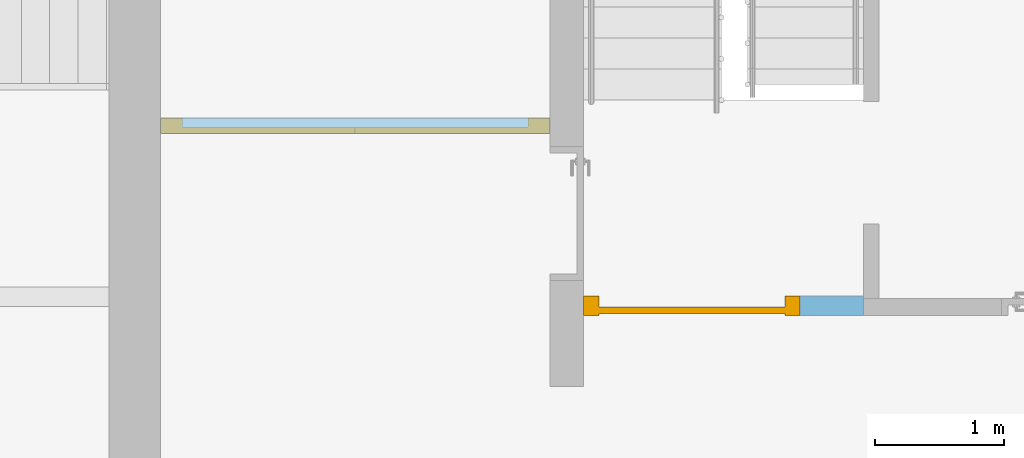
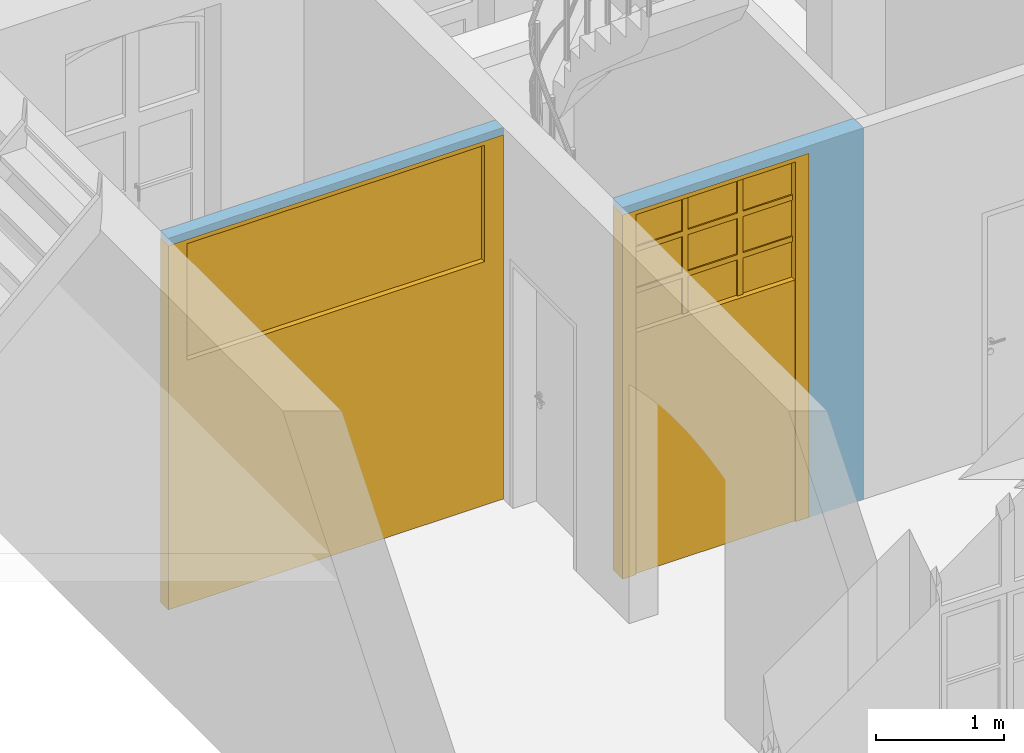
"""IFC4 building model written with IfcOpenShell, lengths in metres."""

from ifc_helpers import new_model, entity, si_unit, converted_unit, derived_unit, frame, frame_2d, origin, origin_with_axes, place, context, subcontext, project, spatial, polyline, rectangle, outline, extrude, faceted_brep, source, transform, mapped, material, layer, layer_set, layer_usage, element, fill, save


model = new_model("IFC4")

# Units and contexts
model_context = context("Model", 3, precision=1e-05, world=origin())
body_context = subcontext(model_context, "Body", "Model", "MODEL_VIEW")
ifc_project = project(units=[si_unit("LENGTHUNIT", "METRE"), si_unit("AREAUNIT", "SQUARE_METRE"), si_unit("VOLUMEUNIT", "CUBIC_METRE"), si_unit("MASSUNIT", "GRAM", prefix="KILO"), converted_unit("PLANEANGLEUNIT", "DEGREE", entity("IfcPlaneAngleMeasure", 0.0174532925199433), si_unit("PLANEANGLEUNIT", "RADIAN"), dimensions=[0, 0, 0, 0, 0, 0, 0]), derived_unit("THERMALTRANSMITTANCEUNIT", [(si_unit("POWERUNIT", "WATT"), 1), (si_unit("THERMODYNAMICTEMPERATUREUNIT", "KELVIN"), -1), (si_unit("LENGTHUNIT", "METRE"), -2)]), derived_unit("VOLUMETRICFLOWRATEUNIT", [(si_unit("LENGTHUNIT", "METRE"), 3), (converted_unit("TIMEUNIT", "hour", entity("IfcTimeMeasure", 3600.0), si_unit("TIMEUNIT", "SECOND"), dimensions=[0, 0, 1, 0, 0, 0, 0]), -1), (si_unit("LENGTHUNIT", "METRE"), -1)])], contexts=[model_context])

# Building, storeys
building_placement = place(None, origin())
building = spatial("IfcBuilding", under=ifc_project, at=building_placement, Name="Bestandsgebäude A - Sporthalle / Wohnhaus (TB 100-499)   ANPASSEN !!!", CompositionType="ELEMENT")
storey_1_placement = place(building_placement, frame((0.0, 0.0, 3.87)))
storey_1 = spatial("IfcBuildingStorey", under=building, at=storey_1_placement, Name="Geb. A 1. Obergeschoss (TB 250-299)", CompositionType="ELEMENT", Elevation=3.87)
storey_2_placement = place(storey_1_placement, frame((0.0, 0.0, 3.87)))
storey_2 = spatial("IfcBuildingStorey", under=storey_1, at=storey_2_placement, Name="Architektur (TB 250-259)", CompositionType="PARTIAL")

# Wall, opening, door
ifc_material_1 = material(Name="masonry")
ifc_layer_1 = layer(ifc_material_1, 0.12)
ifc_layer_set_1 = layer_set([ifc_layer_1])
ifc_layer_usage_1 = layer_usage(ifc_layer_set_1, "AXIS2", "POSITIVE", 0.0)
wall_1_placement = place(storey_2_placement, frame((-5.48, 5.89, -3.97), z_axis=(0.0, 0.0, 1.0), x_axis=(-1.0, 0.0, 0.0)))
wall_1 = element("IfcWall", 1, at=wall_1_placement, inside=storey_2, material=ifc_layer_usage_1, Name="masonry load-bearing", PredefinedType="USERDEFINED", context=body_context, shape_type="SweptSolid", body=[
    extrude(rectangle(XDim=3.02, YDim=0.12, at=frame_2d((1.51, 0.06), x_axis=(1.0, 0.0))), origin_with_axes(), (0.0, 0.0, 1.0), 3.54),
])
opening_1_placement = place(wall_1_placement, frame((0.0, 0.0, 0.0), z_axis=(0.0, 1.0, 0.0), x_axis=(0.0, 0.0, 1.0)))
opening_1 = element("IfcOpeningElement", 2, at=opening_1_placement, cuts=wall_1, Name="Door opening", PredefinedType="OPENING", context=body_context, shape_type="SweptSolid", body=[
    extrude(outline(polyline([(3.47, 3.02), (3.47, 0.0), (0.0, 0.0), (0.0, 3.02), (3.47, 3.02)])), origin_with_axes(), (0.0, 0.0, 1.0), 0.12),
])
shared_shape_1 = source(origin_with_axes(), body_context, "Body", "Brep", [
    faceted_brep([(0.0, 0.12, 3.47), (0.0, 0.12, 0.0), (0.17, 0.12, 0.0), (0.17, 0.12, 3.47), (0.0, 0.0, 0.0), (0.0, 0.0, 3.47), (0.17, 0.0, 3.47), (0.17, 0.0, 0.0)], [[[0, 1, 2, 3]], [[4, 5, 6, 7]], [[1, 0, 5, 4]], [[2, 1, 4, 7]], [[3, 2, 7, 6]], [[0, 3, 6, 5]]], orient=[[False], [False], [False], [False], [False], [False]]),
    faceted_brep([(2.85, 0.12, 3.47), (2.85, 0.12, 0.0), (3.02, 0.12, 0.0), (3.02, 0.12, 3.47), (2.85, 0.0, 0.0), (2.85, 0.0, 3.47), (3.02, 0.0, 3.47), (3.02, 0.0, 0.0)], [[[0, 1, 2, 3]], [[4, 5, 6, 7]], [[1, 0, 5, 4]], [[2, 1, 4, 7]], [[3, 2, 7, 6]], [[0, 3, 6, 5]]], orient=[[False], [False], [False], [False], [False], [False]]),
    faceted_brep([(0.17, 0.12, 3.47), (0.17, 0.12, 3.43), (2.85, 0.12, 3.43), (2.85, 0.12, 3.47), (0.17, 0.0, 3.43), (0.17, 0.0, 3.47), (2.85, 0.0, 3.47), (2.85, 0.0, 3.43)], [[[0, 1, 2, 3]], [[4, 5, 6, 7]], [[1, 0, 5, 4]], [[2, 1, 4, 7]], [[3, 2, 7, 6]], [[0, 3, 6, 5]]], orient=[[False], [False], [False], [False], [False], [False]]),
    faceted_brep([(0.17, 0.12, 2.320000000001), (0.17, 0.12, 2.120000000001), (2.85, 0.12, 2.120000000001), (2.85, 0.12, 2.320000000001), (0.17, 0.0, 2.120000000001), (0.17, 0.0, 2.320000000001), (2.85, 0.0, 2.320000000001), (2.85, 0.0, 2.120000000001)], [[[0, 1, 2, 3]], [[4, 5, 6, 7]], [[1, 0, 5, 4]], [[2, 1, 4, 7]], [[3, 2, 7, 6]], [[0, 3, 6, 5]]], orient=[[False], [False], [False], [False], [False], [False]]),
    faceted_brep([(0.17, 0.072, 2.320000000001), (0.17, 0.048, 2.320000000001), (2.85, 0.048, 2.320000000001), (2.85, 0.072, 2.320000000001), (0.17, 0.048, 3.43), (0.17, 0.072, 3.43), (2.85, 0.072, 3.43), (2.85, 0.048, 3.43)], [[[0, 1, 2, 3]], [[4, 5, 6, 7]], [[1, 0, 5, 4]], [[2, 1, 4, 7]], [[3, 2, 7, 6]], [[0, 3, 6, 5]]], orient=[[False], [False], [False], [False], [False], [False]]),
    faceted_brep([(0.17, 0.12, 2.120000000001), (0.17, 0.12, 0.0), (1.5095, 0.12, 0.0), (1.5095, 0.12, 2.120000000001), (0.17, 0.07, 0.0), (0.17, 0.07, 2.120000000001), (1.5095, 0.07, 2.120000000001), (1.5095, 0.07, 0.0)], [[[0, 1, 2, 3]], [[4, 5, 6, 7]], [[1, 0, 5, 4]], [[2, 1, 4, 7]], [[3, 2, 7, 6]], [[0, 3, 6, 5]]], orient=[[False], [False], [False], [False], [False], [False]]),
    faceted_brep([(1.5105, 0.12, 2.120000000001), (1.5105, 0.12, 0.0), (2.85, 0.12, 0.0), (2.85, 0.12, 2.120000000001), (1.5105, 0.07, 0.0), (1.5105, 0.07, 2.120000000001), (2.85, 0.07, 2.120000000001), (2.85, 0.07, 0.0)], [[[0, 1, 2, 3]], [[4, 5, 6, 7]], [[1, 0, 5, 4]], [[2, 1, 4, 7]], [[3, 2, 7, 6]], [[0, 3, 6, 5]]], orient=[[False], [False], [False], [False], [False], [False]]),
])
door_1_placement = place(opening_1_placement, frame((0.0, 0.0, 0.0), z_axis=(1.0, 0.0, 0.0), x_axis=(0.0, 1.0, 0.0)))
door_1 = element("IfcDoor", 3, at=door_1_placement, inside=storey_2, Name="door", OperationType="USERDEFINED", OverallHeight=3.47, OverallWidth=3.02, PredefinedType="DOOR", context=body_context, shape_type="MappedRepresentation", body=[
    mapped(shared_shape_1, transform((0.0, 0.0, 0.0), x_axis=(1.0, 0.0, 0.0), y_axis=(0.0, 1.0, 0.0), z_axis=(0.0, 0.0, 1.0), scale=1.0)),
])
fill(opening_1, door_1)

ifc_material_2 = material(Name="masonry")
ifc_layer_2 = layer(ifc_material_2, 0.15)
ifc_layer_set_2 = layer_set([ifc_layer_2])
ifc_layer_usage_2 = layer_usage(ifc_layer_set_2, "AXIS2", "POSITIVE", 0.0)
wall_2_placement = place(storey_2_placement, frame((-5.22, 4.36, -3.97)))
wall_2 = element("IfcWall", 4, at=wall_2_placement, inside=storey_2, material=ifc_layer_usage_2, Name="masonry load-bearing", PredefinedType="USERDEFINED", context=body_context, shape_type="SweptSolid", body=[
    extrude(rectangle(XDim=2.17000000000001, YDim=0.15, at=frame_2d((1.085, 0.075), x_axis=(1.0, 0.0))), origin_with_axes(), (0.0, 0.0, 1.0), 3.54),
])
opening_2_placement = place(wall_2_placement, frame((1.68000000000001, 0.15, 0.0), z_axis=(0.0, -1.0, 0.0), x_axis=(0.0, 0.0, 1.0)))
opening_2 = element("IfcOpeningElement", 5, at=opening_2_placement, cuts=wall_2, Name="Door opening", PredefinedType="OPENING", context=body_context, shape_type="SweptSolid", body=[
    extrude(outline(polyline([(3.47, 1.68000000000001), (3.47, 0.0), (0.0, 0.0), (0.0, 1.68000000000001), (3.47, 1.68000000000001)])), origin_with_axes(), (0.0, 0.0, 1.0), 0.15),
])
shared_shape_2 = source(origin_with_axes(), body_context, "Body", "Brep", [
    faceted_brep([(0.0, 0.15, 3.47), (0.0, 0.15, 0.0), (0.12, 0.15, 0.0), (0.12, 0.15, 3.47), (0.0, 0.0, 0.0), (0.0, 0.0, 3.47), (0.12, 0.0, 3.47), (0.12, 0.0, 0.0)], [[[0, 1, 2, 3]], [[4, 5, 6, 7]], [[1, 0, 5, 4]], [[2, 1, 4, 7]], [[3, 2, 7, 6]], [[0, 3, 6, 5]]], orient=[[False], [False], [False], [False], [False], [False]]),
    faceted_brep([(1.56, 0.15, 3.47), (1.56, 0.15, 0.0), (1.68, 0.15, 0.0), (1.68, 0.15, 3.47), (1.56, 0.0, 0.0), (1.56, 0.0, 3.47), (1.68, 0.0, 3.47), (1.68, 0.0, 0.0)], [[[0, 1, 2, 3]], [[4, 5, 6, 7]], [[1, 0, 5, 4]], [[2, 1, 4, 7]], [[3, 2, 7, 6]], [[0, 3, 6, 5]]], orient=[[False], [False], [False], [False], [False], [False]]),
    faceted_brep([(0.12, 0.15, 3.47), (0.12, 0.15, 3.43), (1.56, 0.15, 3.43), (1.56, 0.15, 3.47), (0.12, 0.0, 3.43), (0.12, 0.0, 3.47), (1.56, 0.0, 3.47), (1.56, 0.0, 3.43)], [[[0, 1, 2, 3]], [[4, 5, 6, 7]], [[1, 0, 5, 4]], [[2, 1, 4, 7]], [[3, 2, 7, 6]], [[0, 3, 6, 5]]], orient=[[False], [False], [False], [False], [False], [False]]),
    faceted_brep([(0.12, 0.135, 2.295000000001), (0.12, 0.135, 2.145000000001), (1.56, 0.135, 2.145000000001), (1.56, 0.135, 2.295000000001), (0.12, 0.015, 2.145000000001), (0.12, 0.015, 2.295000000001), (1.56, 0.015, 2.295000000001), (1.56, 0.015, 2.145000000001)], [[[0, 1, 2, 3]], [[4, 5, 6, 7]], [[1, 0, 5, 4]], [[2, 1, 4, 7]], [[3, 2, 7, 6]], [[0, 3, 6, 5]]], orient=[[False], [False], [False], [False], [False], [False]]),
    faceted_brep([(0.566666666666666, 0.1, 3.43), (0.566666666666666, 0.1, 2.295000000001), (0.616666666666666, 0.1, 2.295000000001), (0.616666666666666, 0.1, 3.43), (0.566666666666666, 0.05, 2.295000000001), (0.566666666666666, 0.05, 3.43), (0.616666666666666, 0.05, 3.43), (0.616666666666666, 0.05, 2.295000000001)], [[[0, 1, 2, 3]], [[4, 5, 6, 7]], [[1, 0, 5, 4]], [[2, 1, 4, 7]], [[3, 2, 7, 6]], [[0, 3, 6, 5]]], orient=[[False], [False], [False], [False], [False], [False]]),
    faceted_brep([(1.06333333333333, 0.1, 3.43), (1.06333333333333, 0.1, 2.295000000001), (1.11333333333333, 0.1, 2.295000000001), (1.11333333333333, 0.1, 3.43), (1.06333333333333, 0.05, 2.295000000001), (1.06333333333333, 0.05, 3.43), (1.11333333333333, 0.05, 3.43), (1.11333333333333, 0.05, 2.295000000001)], [[[0, 1, 2, 3]], [[4, 5, 6, 7]], [[1, 0, 5, 4]], [[2, 1, 4, 7]], [[3, 2, 7, 6]], [[0, 3, 6, 5]]], orient=[[False], [False], [False], [False], [False], [False]]),
    faceted_brep([(0.12, 0.1, 2.69000000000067), (0.12, 0.1, 2.64000000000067), (0.566666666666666, 0.1, 2.64000000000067), (0.566666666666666, 0.1, 2.69000000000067), (0.12, 0.05, 2.64000000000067), (0.12, 0.05, 2.69000000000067), (0.566666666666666, 0.05, 2.69000000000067), (0.566666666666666, 0.05, 2.64000000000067)], [[[0, 1, 2, 3]], [[4, 5, 6, 7]], [[1, 0, 5, 4]], [[2, 1, 4, 7]], [[3, 2, 7, 6]], [[0, 3, 6, 5]]], orient=[[False], [False], [False], [False], [False], [False]]),
    faceted_brep([(0.12, 0.1, 3.08500000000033), (0.12, 0.1, 3.03500000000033), (0.566666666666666, 0.1, 3.03500000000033), (0.566666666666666, 0.1, 3.08500000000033), (0.12, 0.05, 3.03500000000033), (0.12, 0.05, 3.08500000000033), (0.566666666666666, 0.05, 3.08500000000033), (0.566666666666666, 0.05, 3.03500000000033)], [[[0, 1, 2, 3]], [[4, 5, 6, 7]], [[1, 0, 5, 4]], [[2, 1, 4, 7]], [[3, 2, 7, 6]], [[0, 3, 6, 5]]], orient=[[False], [False], [False], [False], [False], [False]]),
    faceted_brep([(0.616666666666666, 0.1, 2.69000000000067), (0.616666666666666, 0.1, 2.64000000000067), (1.06333333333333, 0.1, 2.64000000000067), (1.06333333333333, 0.1, 2.69000000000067), (0.616666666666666, 0.05, 2.64000000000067), (0.616666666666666, 0.05, 2.69000000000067), (1.06333333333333, 0.05, 2.69000000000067), (1.06333333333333, 0.05, 2.64000000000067)], [[[0, 1, 2, 3]], [[4, 5, 6, 7]], [[1, 0, 5, 4]], [[2, 1, 4, 7]], [[3, 2, 7, 6]], [[0, 3, 6, 5]]], orient=[[False], [False], [False], [False], [False], [False]]),
    faceted_brep([(0.616666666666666, 0.1, 3.08500000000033), (0.616666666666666, 0.1, 3.03500000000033), (1.06333333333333, 0.1, 3.03500000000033), (1.06333333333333, 0.1, 3.08500000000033), (0.616666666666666, 0.05, 3.03500000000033), (0.616666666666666, 0.05, 3.08500000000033), (1.06333333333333, 0.05, 3.08500000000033), (1.06333333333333, 0.05, 3.03500000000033)], [[[0, 1, 2, 3]], [[4, 5, 6, 7]], [[1, 0, 5, 4]], [[2, 1, 4, 7]], [[3, 2, 7, 6]], [[0, 3, 6, 5]]], orient=[[False], [False], [False], [False], [False], [False]]),
    faceted_brep([(1.11333333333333, 0.1, 2.69000000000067), (1.11333333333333, 0.1, 2.64000000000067), (1.56, 0.1, 2.64000000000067), (1.56, 0.1, 2.69000000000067), (1.11333333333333, 0.05, 2.64000000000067), (1.11333333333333, 0.05, 2.69000000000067), (1.56, 0.05, 2.69000000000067), (1.56, 0.05, 2.64000000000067)], [[[0, 1, 2, 3]], [[4, 5, 6, 7]], [[1, 0, 5, 4]], [[2, 1, 4, 7]], [[3, 2, 7, 6]], [[0, 3, 6, 5]]], orient=[[False], [False], [False], [False], [False], [False]]),
    faceted_brep([(1.11333333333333, 0.1, 3.08500000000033), (1.11333333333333, 0.1, 3.03500000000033), (1.56, 0.1, 3.03500000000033), (1.56, 0.1, 3.08500000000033), (1.11333333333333, 0.05, 3.03500000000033), (1.11333333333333, 0.05, 3.08500000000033), (1.56, 0.05, 3.08500000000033), (1.56, 0.05, 3.03500000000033)], [[[0, 1, 2, 3]], [[4, 5, 6, 7]], [[1, 0, 5, 4]], [[2, 1, 4, 7]], [[3, 2, 7, 6]], [[0, 3, 6, 5]]], orient=[[False], [False], [False], [False], [False], [False]]),
    faceted_brep([(0.12, 0.135, 2.145000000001), (0.12, 0.135, 0.0), (0.8395, 0.135, 0.0), (0.8395, 0.135, 2.145000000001), (0.12, 0.085, 0.0), (0.12, 0.085, 2.145000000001), (0.8395, 0.085, 2.145000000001), (0.8395, 0.085, 0.0)], [[[0, 1, 2, 3]], [[4, 5, 6, 7]], [[1, 0, 5, 4]], [[2, 1, 4, 7]], [[3, 2, 7, 6]], [[0, 3, 6, 5]]], orient=[[False], [False], [False], [False], [False], [False]]),
    faceted_brep([(0.8405, 0.135, 2.145000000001), (0.8405, 0.135, 0.0), (1.56, 0.135, 0.0), (1.56, 0.135, 2.145000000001), (0.8405, 0.085, 0.0), (0.8405, 0.085, 2.145000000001), (1.56, 0.085, 2.145000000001), (1.56, 0.085, 0.0)], [[[0, 1, 2, 3]], [[4, 5, 6, 7]], [[1, 0, 5, 4]], [[2, 1, 4, 7]], [[3, 2, 7, 6]], [[0, 3, 6, 5]]], orient=[[False], [False], [False], [False], [False], [False]]),
    faceted_brep([(0.12, 0.087, 2.295000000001), (0.12, 0.063, 2.295000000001), (0.566666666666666, 0.063, 2.295000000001), (0.566666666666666, 0.087, 2.295000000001), (0.12, 0.063, 2.64000000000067), (0.12, 0.087, 2.64000000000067), (0.566666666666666, 0.087, 2.64000000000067), (0.566666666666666, 0.063, 2.64000000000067)], [[[0, 1, 2, 3]], [[4, 5, 6, 7]], [[1, 0, 5, 4]], [[2, 1, 4, 7]], [[3, 2, 7, 6]], [[0, 3, 6, 5]]], orient=[[False], [False], [False], [False], [False], [False]]),
    faceted_brep([(0.12, 0.087, 2.69000000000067), (0.12, 0.063, 2.69000000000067), (0.566666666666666, 0.063, 2.69000000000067), (0.566666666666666, 0.087, 2.69000000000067), (0.12, 0.063, 3.03500000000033), (0.12, 0.087, 3.03500000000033), (0.566666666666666, 0.087, 3.03500000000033), (0.566666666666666, 0.063, 3.03500000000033)], [[[0, 1, 2, 3]], [[4, 5, 6, 7]], [[1, 0, 5, 4]], [[2, 1, 4, 7]], [[3, 2, 7, 6]], [[0, 3, 6, 5]]], orient=[[False], [False], [False], [False], [False], [False]]),
    faceted_brep([(0.12, 0.087, 3.08500000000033), (0.12, 0.063, 3.08500000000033), (0.566666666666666, 0.063, 3.08500000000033), (0.566666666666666, 0.087, 3.08500000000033), (0.12, 0.063, 3.43), (0.12, 0.087, 3.43), (0.566666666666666, 0.087, 3.43), (0.566666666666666, 0.063, 3.43)], [[[0, 1, 2, 3]], [[4, 5, 6, 7]], [[1, 0, 5, 4]], [[2, 1, 4, 7]], [[3, 2, 7, 6]], [[0, 3, 6, 5]]], orient=[[False], [False], [False], [False], [False], [False]]),
    faceted_brep([(0.616666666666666, 0.087, 2.295000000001), (0.616666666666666, 0.063, 2.295000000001), (1.06333333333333, 0.063, 2.295000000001), (1.06333333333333, 0.087, 2.295000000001), (0.616666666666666, 0.063, 2.64000000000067), (0.616666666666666, 0.087, 2.64000000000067), (1.06333333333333, 0.087, 2.64000000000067), (1.06333333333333, 0.063, 2.64000000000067)], [[[0, 1, 2, 3]], [[4, 5, 6, 7]], [[1, 0, 5, 4]], [[2, 1, 4, 7]], [[3, 2, 7, 6]], [[0, 3, 6, 5]]], orient=[[False], [False], [False], [False], [False], [False]]),
    faceted_brep([(0.616666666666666, 0.087, 2.69000000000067), (0.616666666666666, 0.063, 2.69000000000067), (1.06333333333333, 0.063, 2.69000000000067), (1.06333333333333, 0.087, 2.69000000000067), (0.616666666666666, 0.063, 3.03500000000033), (0.616666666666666, 0.087, 3.03500000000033), (1.06333333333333, 0.087, 3.03500000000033), (1.06333333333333, 0.063, 3.03500000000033)], [[[0, 1, 2, 3]], [[4, 5, 6, 7]], [[1, 0, 5, 4]], [[2, 1, 4, 7]], [[3, 2, 7, 6]], [[0, 3, 6, 5]]], orient=[[False], [False], [False], [False], [False], [False]]),
    faceted_brep([(0.616666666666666, 0.087, 3.08500000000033), (0.616666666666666, 0.063, 3.08500000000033), (1.06333333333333, 0.063, 3.08500000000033), (1.06333333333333, 0.087, 3.08500000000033), (0.616666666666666, 0.063, 3.43), (0.616666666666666, 0.087, 3.43), (1.06333333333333, 0.087, 3.43), (1.06333333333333, 0.063, 3.43)], [[[0, 1, 2, 3]], [[4, 5, 6, 7]], [[1, 0, 5, 4]], [[2, 1, 4, 7]], [[3, 2, 7, 6]], [[0, 3, 6, 5]]], orient=[[False], [False], [False], [False], [False], [False]]),
    faceted_brep([(1.11333333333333, 0.087, 2.295000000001), (1.11333333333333, 0.063, 2.295000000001), (1.56, 0.063, 2.295000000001), (1.56, 0.087, 2.295000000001), (1.11333333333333, 0.063, 2.64000000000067), (1.11333333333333, 0.087, 2.64000000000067), (1.56, 0.087, 2.64000000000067), (1.56, 0.063, 2.64000000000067)], [[[0, 1, 2, 3]], [[4, 5, 6, 7]], [[1, 0, 5, 4]], [[2, 1, 4, 7]], [[3, 2, 7, 6]], [[0, 3, 6, 5]]], orient=[[False], [False], [False], [False], [False], [False]]),
    faceted_brep([(1.11333333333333, 0.087, 2.69000000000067), (1.11333333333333, 0.063, 2.69000000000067), (1.56, 0.063, 2.69000000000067), (1.56, 0.087, 2.69000000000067), (1.11333333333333, 0.063, 3.03500000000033), (1.11333333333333, 0.087, 3.03500000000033), (1.56, 0.087, 3.03500000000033), (1.56, 0.063, 3.03500000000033)], [[[0, 1, 2, 3]], [[4, 5, 6, 7]], [[1, 0, 5, 4]], [[2, 1, 4, 7]], [[3, 2, 7, 6]], [[0, 3, 6, 5]]], orient=[[False], [False], [False], [False], [False], [False]]),
    faceted_brep([(1.11333333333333, 0.087, 3.08500000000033), (1.11333333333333, 0.063, 3.08500000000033), (1.56, 0.063, 3.08500000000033), (1.56, 0.087, 3.08500000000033), (1.11333333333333, 0.063, 3.43), (1.11333333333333, 0.087, 3.43), (1.56, 0.087, 3.43), (1.56, 0.063, 3.43)], [[[0, 1, 2, 3]], [[4, 5, 6, 7]], [[1, 0, 5, 4]], [[2, 1, 4, 7]], [[3, 2, 7, 6]], [[0, 3, 6, 5]]], orient=[[False], [False], [False], [False], [False], [False]]),
])
door_2_placement = place(opening_2_placement, frame((0.0, 0.0, 0.0), z_axis=(1.0, 0.0, 0.0), x_axis=(0.0, 1.0, 0.0)))
door_2 = element("IfcDoor", 6, at=door_2_placement, inside=storey_2, Name="door", OperationType="USERDEFINED", OverallHeight=3.47, OverallWidth=1.68, PredefinedType="DOOR", context=body_context, shape_type="MappedRepresentation", body=[
    mapped(shared_shape_2, transform((0.0, 0.0, 0.0), x_axis=(1.0, 0.0, 0.0), y_axis=(0.0, 1.0, 0.0), z_axis=(0.0, 0.0, 1.0), scale=1.0)),
])
fill(opening_2, door_2)

save(model, "model.ifc")
